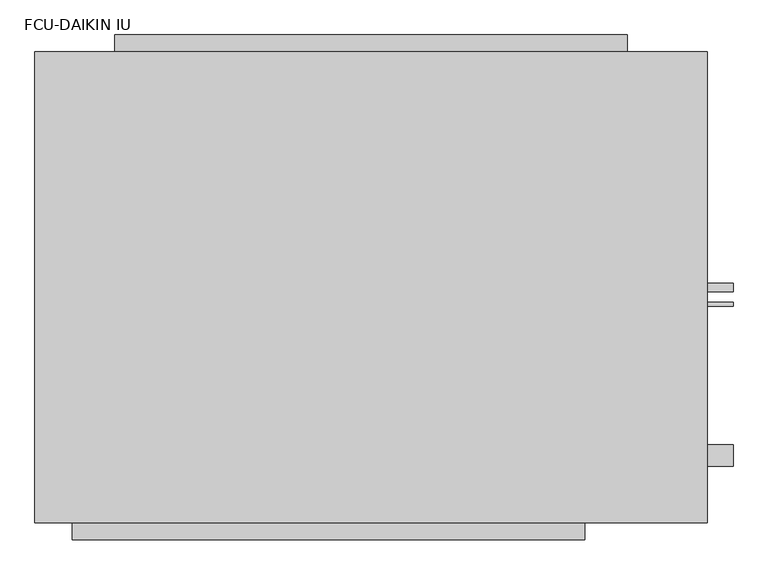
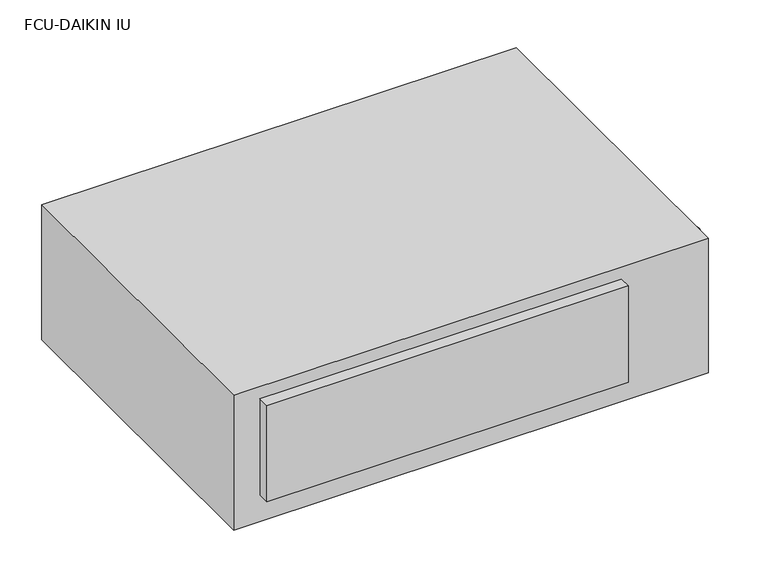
"""IFC4 building model written with IfcOpenShell, lengths in millimetres: proxy geometry, FCU-DAIKIN IU : 5.7kW, 230V/50Hz/1Ph."""

from ifc_helpers import new_model, si_unit, point, frame, frame_2d, origin, origin_with_axes, place, context, project, spatial, polyline, circle_curve, trimmed, segment, composite_curve, outline, extrude, source, transform, mapped, element, save


def fcu_daikin_iu_7e1df382(model_context):
    return source(origin(), model_context, "Body", "SweptSolid", [
        extrude(outline(polyline([(380.9375, 350.0), (-380.9375, 350.0), (-380.9375, 375.4), (380.9375, 375.4), (380.9375, 350.0)])), frame((0.0, 0.0, 34.05), z_axis=(0.0, 0.0, 1.0), x_axis=(1.0, 0.0, 0.0)), (0.0, 0.0, 1.0), 214.3),
        extrude(outline(composite_curve([segment(trimmed(circle_curve(frame_2d((-250.0, 233.3)), 15.9), [point((-265.9, 233.3))], [point((-234.1, 233.3))], False, "CARTESIAN"), True, "CONTINUOUS"), segment(trimmed(circle_curve(frame_2d((-250.0, 233.3)), 15.9), [point((-234.1, 233.3))], [point((-265.9, 233.3))], False, "CARTESIAN"), True, "CONTINUOUS")], self_intersect=False)), frame((500.0, 0.0, 0.0), z_axis=(1.0, 0.0, 0.0), x_axis=(0.0, 1.0, 0.0)), (0.0, 0.0, 1.0), 38.1),
        extrude(outline(composite_curve([segment(trimmed(circle_curve(frame_2d((0.0, 100.0)), 6.35), [point((-6.35, 100.0))], [point((6.35, 100.0))], False, "CARTESIAN"), True, "CONTINUOUS"), segment(trimmed(circle_curve(frame_2d((0.0, 100.0)), 6.35), [point((6.35, 100.0))], [point((-6.35, 100.0))], False, "CARTESIAN"), True, "CONTINUOUS")], self_intersect=False)), frame((500.0, 0.0, 0.0), z_axis=(1.0, 0.0, 0.0), x_axis=(0.0, 1.0, 0.0)), (0.0, 0.0, 1.0), 38.1),
        extrude(outline(composite_curve([segment(trimmed(circle_curve(frame_2d((-25.0, 150.8)), 3.2), [point((-28.2, 150.8))], [point((-21.8, 150.8))], False, "CARTESIAN"), True, "CONTINUOUS"), segment(trimmed(circle_curve(frame_2d((-25.0, 150.8)), 3.2), [point((-21.8, 150.8))], [point((-28.2, 150.8))], False, "CARTESIAN"), True, "CONTINUOUS")], self_intersect=False)), frame((500.0, 0.0, 0.0), z_axis=(1.0, 0.0, 0.0), x_axis=(0.0, 1.0, 0.0)), (0.0, 0.0, 1.0), 38.1),
        extrude(outline(polyline([(317.4375, -375.4), (-444.4375, -375.4), (-444.4375, -350.0), (317.4375, -350.0), (317.4375, -375.4)])), frame((0.0, 0.0, 58.775), z_axis=(0.0, 0.0, 1.0), x_axis=(1.0, 0.0, 0.0)), (0.0, 0.0, 1.0), 214.275),
        extrude(outline(polyline([(500.0, -350.0), (-500.0, -350.0), (-500.0, 350.0), (500.0, 350.0), (500.0, -350.0)])), origin_with_axes(), (0.0, 0.0, 1.0), 300.0),
    ])


if __name__ == "__main__":
    model = new_model("IFC4")
    model_context = context("Model", 3, world=origin())
    ifc_project = project(units=[si_unit("LENGTHUNIT", "METRE", prefix="MILLI")], contexts=[model_context])
    site = spatial("IfcSite", under=ifc_project)
    building = spatial("IfcBuilding", under=site)
    placement = place(None, origin())
    fcu_daikin_iu_shape = fcu_daikin_iu_7e1df382(model_context)
    element("IfcBuildingElementProxy", 1, Name="FCU-DAIKIN IU : 5.7kW, 230V/50Hz/1Ph", ObjectType="FCU-DAIKIN IU : 5.7kW, 230V/50Hz/1Ph", at=placement, inside=building, context=model_context, shape_type="MappedRepresentation", body=[
        mapped(fcu_daikin_iu_shape, transform((0.0, 0.0, 0.0), x_axis=(1.0, 0.0, 0.0), y_axis=(0.0, 1.0, 0.0), z_axis=(0.0, 0.0, 1.0))),
    ])
    save(model, "model.ifc")
